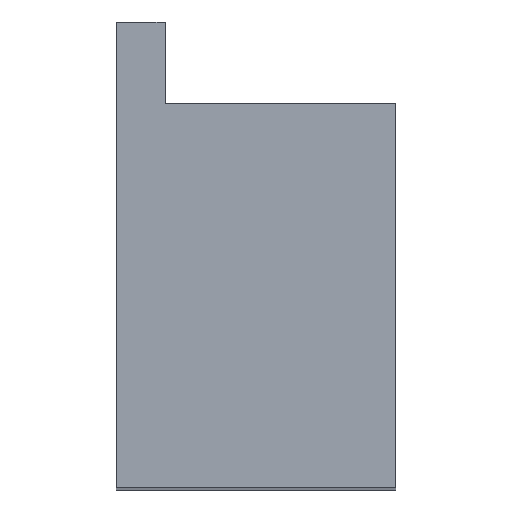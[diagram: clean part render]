
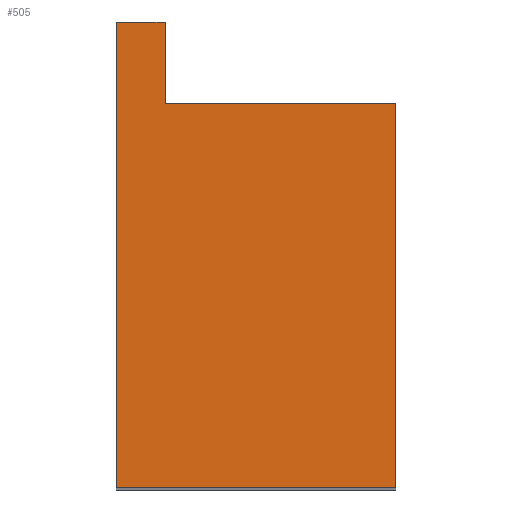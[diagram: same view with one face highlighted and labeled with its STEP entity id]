
A CAD part, top view. The second image highlights one B-rep face of the part: STEP entity #505.
In plain terms, the highlighted planar face has unit normal (0, 0, 1).
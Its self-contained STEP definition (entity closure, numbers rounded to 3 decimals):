
#85=DIRECTION('',(0.,-1.,0.));
#86=VECTOR('',#85,16.5);
#87=CARTESIAN_POINT('',(9.9,8.25,26.5));
#88=LINE('',#87,#86);
#146=DIRECTION('',(-1.,0.,0.));
#147=VECTOR('',#146,12.);
#148=CARTESIAN_POINT('',(9.9,-8.25,26.5));
#149=LINE('',#148,#147);
#153=DIRECTION('',(0.,1.,0.));
#154=VECTOR('',#153,20.);
#155=CARTESIAN_POINT('',(-2.1,-8.25,26.5));
#156=LINE('',#155,#154);
#160=DIRECTION('',(1.,0.,0.));
#161=VECTOR('',#160,9.9);
#162=CARTESIAN_POINT('',(0.,8.25,26.5));
#163=LINE('',#162,#161);
#202=DIRECTION('',(0.,1.,0.));
#203=VECTOR('',#202,3.5);
#204=CARTESIAN_POINT('',(0.,8.25,26.5));
#205=LINE('',#204,#203);
#223=DIRECTION('',(1.,0.,0.));
#224=VECTOR('',#223,2.1);
#225=CARTESIAN_POINT('',(-2.1,11.75,26.5));
#226=LINE('',#225,#224);
#396=CARTESIAN_POINT('',(9.9,8.25,26.5));
#397=CARTESIAN_POINT('',(9.9,-8.25,26.5));
#398=VERTEX_POINT('',#396);
#399=VERTEX_POINT('',#397);
#405=CARTESIAN_POINT('',(-2.1,-8.25,26.5));
#407=VERTEX_POINT('',#405);
#412=CARTESIAN_POINT('',(-2.1,11.75,26.5));
#413=VERTEX_POINT('',#412);
#414=CARTESIAN_POINT('',(0.,11.75,26.5));
#415=VERTEX_POINT('',#414);
#417=CARTESIAN_POINT('',(0.,8.25,26.5));
#419=VERTEX_POINT('',#417);
#487=CARTESIAN_POINT('',(0.,8.25,26.5));
#488=DIRECTION('',(0.,0.,1.));
#489=DIRECTION('',(0.,-1.,0.));
#490=AXIS2_PLACEMENT_3D('',#487,#488,#489);
#491=PLANE('',#490);
#493=ORIENTED_EDGE('',*,*,#492,.T.);
#495=ORIENTED_EDGE('',*,*,#494,.T.);
#497=ORIENTED_EDGE('',*,*,#496,.T.);
#499=ORIENTED_EDGE('',*,*,#498,.F.);
#501=ORIENTED_EDGE('',*,*,#500,.T.);
#502=ORIENTED_EDGE('',*,*,#457,.T.);
#503=EDGE_LOOP('',(#493,#495,#497,#499,#501,#502));
#504=FACE_OUTER_BOUND('',#503,.F.);
#505=ADVANCED_FACE('',(#504),#491,.T.);
#457=EDGE_CURVE('',#398,#399,#88,.T.);
#492=EDGE_CURVE('',#399,#407,#149,.T.);
#494=EDGE_CURVE('',#407,#413,#156,.T.);
#496=EDGE_CURVE('',#413,#415,#226,.T.);
#498=EDGE_CURVE('',#419,#415,#205,.T.);
#500=EDGE_CURVE('',#419,#398,#163,.T.);
